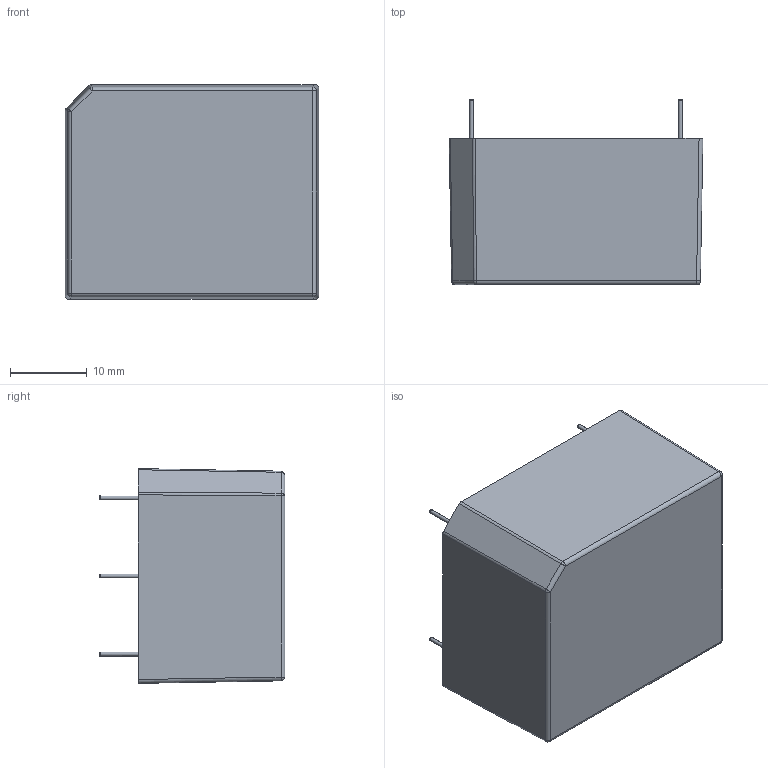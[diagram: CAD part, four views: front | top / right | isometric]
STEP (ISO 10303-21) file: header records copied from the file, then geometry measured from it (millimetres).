
FILE_DESCRIPTION (( 'STEP AP214' ), '1' );
FILE_NAME ('VCE05.STEP', '2017-02-06T18:21:20', ( '' ), ( '' ), 'SwSTEP 2.0', 'SolidWorks 2017', '' );
FILE_SCHEMA (( 'AUTOMOTIVE_DESIGN' ));
Length unit declared in the file: inch
Products named in the file (14): VCE05 BASE+PIN ASM; VCE05-P1; VCE05; VCE05USXX-P BASE-PIN; VCE05 BASE PIN; VCE05 BASE+PIN CVR; VCE05 CASE; VCE05 PLUG; R1; TO-92A; VCE05 BASE PIN d0.5x9.8mm; VCE05 PCB(01); TX1; C1
Assembly tree (19 placements, depth 4):
  VCE05
    VCE05-P1
      C1
      TX1
      TO-92A
      R1
      VCE05 PCB(01)
      VCE05USXX-P BASE-PIN
        VCE05 BASE PIN d0.5x9.8mm  x4
    VCE05 PLUG
    VCE05 BASE+PIN ASM
      VCE05 BASE PIN  x4
      VCE05 BASE+PIN CVR
    VCE05 CASE
Bounding box: 33.02 x 24.15 x 27.94 mm (x, y, z)
Volume: 8043.8 mm3; surface area: 13462.7 mm2
Topology: 17 solids, 17 shells, 776 faces, 1870 edges, 1149 vertices
Faces by surface type: plane 484, cylinder 245, bspline 27, cone 8, torus 7, sphere 5
Full cylindrical faces by diameter (mm): 0.45 x3, 0.5 x38, 0.6 x12, 0.7 x3, 0.701 x4, 0.798 x4, 1.2 x4, 3.002 x2, 6.8 x2, 8.2 x1
Entity records: 15853 total; most frequent: CARTESIAN_POINT 3790, DIRECTION 2144, ORIENTED_EDGE 1984, EDGE_CURVE 992, AXIS2_PLACEMENT_3D 752, VERTEX_POINT 654, LINE 640, VECTOR 640
